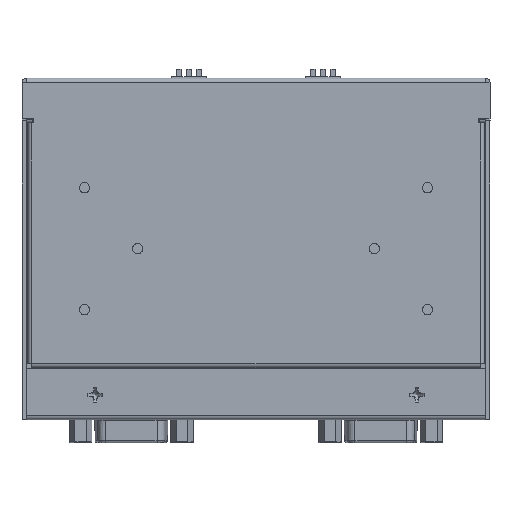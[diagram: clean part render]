
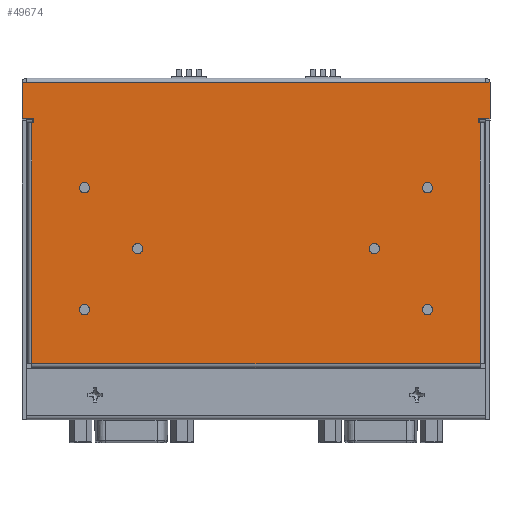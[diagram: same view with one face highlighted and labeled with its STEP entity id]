
A CAD part, front view. The second image highlights one B-rep face of the part: STEP entity #49674.
In plain terms, the highlighted planar face has unit normal (0, -1, 0).
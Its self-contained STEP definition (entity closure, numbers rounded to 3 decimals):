
#429=FACE_BOUND('',#6393,.T.);
#430=FACE_BOUND('',#6394,.T.);
#431=FACE_BOUND('',#6395,.T.);
#432=FACE_BOUND('',#6396,.T.);
#433=FACE_BOUND('',#6397,.T.);
#434=FACE_BOUND('',#6398,.T.);
#1194=PLANE('',#52932);
#3551=FACE_OUTER_BOUND('',#6392,.T.);
#6392=EDGE_LOOP('',(#37437,#37438,#37439,#37440,#37441,#37442,#37443,#37444,
#37445,#37446,#37447,#37448,#37449,#37450));
#6393=EDGE_LOOP('',(#37451));
#6394=EDGE_LOOP('',(#37452));
#6395=EDGE_LOOP('',(#37453));
#6396=EDGE_LOOP('',(#37454));
#6397=EDGE_LOOP('',(#37455));
#6398=EDGE_LOOP('',(#37456));
#9098=CIRCLE('',#52933,1.265);
#9099=CIRCLE('',#52934,1.265);
#9100=CIRCLE('',#52935,1.265);
#9101=CIRCLE('',#52936,1.265);
#9102=CIRCLE('',#52937,1.265);
#9103=CIRCLE('',#52938,1.265);
#11708=LINE('',#81752,#17187);
#11713=LINE('',#81762,#17192);
#11714=LINE('',#81765,#17193);
#11718=LINE('',#81773,#17197);
#11722=LINE('',#81780,#17201);
#11725=LINE('',#81786,#17204);
#11727=LINE('',#81791,#17206);
#11762=LINE('',#81870,#17241);
#11776=LINE('',#81936,#17255);
#11790=LINE('',#81969,#17269);
#11806=LINE('',#82074,#17285);
#11807=LINE('',#82076,#17286);
#11808=LINE('',#82077,#17287);
#11809=LINE('',#82078,#17288);
#17187=VECTOR('',#59656,10.);
#17192=VECTOR('',#59663,10.);
#17193=VECTOR('',#59666,10.);
#17197=VECTOR('',#59672,10.);
#17201=VECTOR('',#59678,10.);
#17204=VECTOR('',#59683,10.);
#17206=VECTOR('',#59687,10.);
#17241=VECTOR('',#59744,10.);
#17255=VECTOR('',#59790,10.);
#17269=VECTOR('',#59828,10.);
#17285=VECTOR('',#59884,10.);
#17286=VECTOR('',#59885,10.);
#17287=VECTOR('',#59886,10.);
#17288=VECTOR('',#59887,10.);
#22657=VERTEX_POINT('',#81749);
#22658=VERTEX_POINT('',#81751);
#22659=VERTEX_POINT('',#81755);
#22662=VERTEX_POINT('',#81760);
#22663=VERTEX_POINT('',#81764);
#22666=VERTEX_POINT('',#81772);
#22668=VERTEX_POINT('',#81777);
#22670=VERTEX_POINT('',#81784);
#22672=VERTEX_POINT('',#81789);
#22704=VERTEX_POINT('',#81866);
#22715=VERTEX_POINT('',#81934);
#22738=VERTEX_POINT('',#82072);
#22739=VERTEX_POINT('',#82073);
#22740=VERTEX_POINT('',#82075);
#22741=VERTEX_POINT('',#82079);
#22742=VERTEX_POINT('',#82081);
#22743=VERTEX_POINT('',#82083);
#22744=VERTEX_POINT('',#82085);
#22745=VERTEX_POINT('',#82087);
#22746=VERTEX_POINT('',#82089);
#28116=EDGE_CURVE('',#22658,#22657,#11708,.T.);
#28121=EDGE_CURVE('',#22659,#22662,#11713,.T.);
#28122=EDGE_CURVE('',#22662,#22663,#11714,.T.);
#28126=EDGE_CURVE('',#22666,#22658,#11718,.T.);
#28130=EDGE_CURVE('',#22668,#22666,#11722,.T.);
#28133=EDGE_CURVE('',#22663,#22670,#11725,.T.);
#28135=EDGE_CURVE('',#22670,#22672,#11727,.T.);
#28175=EDGE_CURVE('',#22704,#22668,#11762,.T.);
#28197=EDGE_CURVE('',#22672,#22715,#11776,.T.);
#28215=EDGE_CURVE('',#22715,#22704,#11790,.T.);
#28243=EDGE_CURVE('',#22738,#22739,#11806,.T.);
#28244=EDGE_CURVE('',#22739,#22740,#11807,.T.);
#28245=EDGE_CURVE('',#22740,#22659,#11808,.T.);
#28246=EDGE_CURVE('',#22738,#22657,#11809,.T.);
#28247=EDGE_CURVE('',#22741,#22741,#9098,.T.);
#28248=EDGE_CURVE('',#22742,#22742,#9099,.T.);
#28249=EDGE_CURVE('',#22743,#22743,#9100,.T.);
#28250=EDGE_CURVE('',#22744,#22744,#9101,.T.);
#28251=EDGE_CURVE('',#22745,#22745,#9102,.T.);
#28252=EDGE_CURVE('',#22746,#22746,#9103,.T.);
#37437=ORIENTED_EDGE('',*,*,#28243,.T.);
#37438=ORIENTED_EDGE('',*,*,#28244,.T.);
#37439=ORIENTED_EDGE('',*,*,#28245,.T.);
#37440=ORIENTED_EDGE('',*,*,#28121,.T.);
#37441=ORIENTED_EDGE('',*,*,#28122,.T.);
#37442=ORIENTED_EDGE('',*,*,#28133,.T.);
#37443=ORIENTED_EDGE('',*,*,#28135,.T.);
#37444=ORIENTED_EDGE('',*,*,#28197,.T.);
#37445=ORIENTED_EDGE('',*,*,#28215,.T.);
#37446=ORIENTED_EDGE('',*,*,#28175,.T.);
#37447=ORIENTED_EDGE('',*,*,#28130,.T.);
#37448=ORIENTED_EDGE('',*,*,#28126,.T.);
#37449=ORIENTED_EDGE('',*,*,#28116,.T.);
#37450=ORIENTED_EDGE('',*,*,#28246,.F.);
#37451=ORIENTED_EDGE('',*,*,#28247,.T.);
#37452=ORIENTED_EDGE('',*,*,#28248,.T.);
#37453=ORIENTED_EDGE('',*,*,#28249,.T.);
#37454=ORIENTED_EDGE('',*,*,#28250,.T.);
#37455=ORIENTED_EDGE('',*,*,#28251,.T.);
#37456=ORIENTED_EDGE('',*,*,#28252,.T.);
#49674=ADVANCED_FACE('',(#3551,#429,#430,#431,#432,#433,#434),#1194,.T.);
#52932=AXIS2_PLACEMENT_3D('',#82071,#59882,#59883);
#52933=AXIS2_PLACEMENT_3D('',#82080,#59888,#59889);
#52934=AXIS2_PLACEMENT_3D('',#82082,#59890,#59891);
#52935=AXIS2_PLACEMENT_3D('',#82084,#59892,#59893);
#52936=AXIS2_PLACEMENT_3D('',#82086,#59894,#59895);
#52937=AXIS2_PLACEMENT_3D('',#82088,#59896,#59897);
#52938=AXIS2_PLACEMENT_3D('',#82090,#59898,#59899);
#59656=DIRECTION('',(1.,0.,0.));
#59663=DIRECTION('',(0.,0.,-1.));
#59666=DIRECTION('',(1.,0.,0.));
#59672=DIRECTION('',(0.,0.,1.));
#59678=DIRECTION('',(-1.,0.,0.));
#59683=DIRECTION('',(0.,0.,-1.));
#59687=DIRECTION('',(-1.,0.,0.));
#59744=DIRECTION('',(0.,0.,1.));
#59790=DIRECTION('',(0.,0.,-1.));
#59828=DIRECTION('',(1.,0.,0.));
#59882=DIRECTION('center_axis',(0.,-1.,0.));
#59883=DIRECTION('ref_axis',(1.,0.,0.));
#59884=DIRECTION('',(-1.,0.,0.));
#59885=DIRECTION('',(-1.,0.,0.));
#59886=DIRECTION('',(-1.,0.,0.));
#59887=DIRECTION('',(0.,0.,-1.));
#59888=DIRECTION('center_axis',(0.,1.,0.));
#59889=DIRECTION('ref_axis',(0.,0.,-1.));
#59890=DIRECTION('center_axis',(0.,1.,0.));
#59891=DIRECTION('ref_axis',(0.,0.,-1.));
#59892=DIRECTION('center_axis',(0.,1.,0.));
#59893=DIRECTION('ref_axis',(0.,0.,-1.));
#59894=DIRECTION('center_axis',(0.,1.,0.));
#59895=DIRECTION('ref_axis',(0.,0.,-1.));
#59896=DIRECTION('center_axis',(0.,1.,0.));
#59897=DIRECTION('ref_axis',(0.,0.,-1.));
#59898=DIRECTION('center_axis',(0.,1.,0.));
#59899=DIRECTION('ref_axis',(0.,0.,-1.));
#81749=CARTESIAN_POINT('',(57.65,-8.,-8.8));
#81751=CARTESIAN_POINT('',(54.74,-8.,-8.8));
#81752=CARTESIAN_POINT('',(3.1,-8.,-8.8));
#81755=CARTESIAN_POINT('',(-57.65,-8.,0.19));
#81760=CARTESIAN_POINT('',(-57.65,-8.,-8.8));
#81762=CARTESIAN_POINT('',(-57.65,-8.,-8.8));
#81764=CARTESIAN_POINT('',(-54.74,-8.,-8.8));
#81765=CARTESIAN_POINT('',(-52.395,-8.,-8.8));
#81772=CARTESIAN_POINT('',(54.74,-8.,-9.8));
#81773=CARTESIAN_POINT('',(54.74,-8.,-16.9));
#81777=CARTESIAN_POINT('',(55.24,-8.,-9.8));
#81780=CARTESIAN_POINT('',(2.345,-8.,-9.8));
#81784=CARTESIAN_POINT('',(-54.74,-8.,-9.8));
#81786=CARTESIAN_POINT('',(-54.74,-8.,-17.4));
#81789=CARTESIAN_POINT('',(-55.24,-8.,-9.8));
#81791=CARTESIAN_POINT('',(-53.15,-8.,-9.8));
#81866=CARTESIAN_POINT('',(55.24,-8.,-69.157));
#81870=CARTESIAN_POINT('',(55.24,-8.,-17.4));
#81934=CARTESIAN_POINT('',(-55.24,-8.,-69.157));
#81936=CARTESIAN_POINT('',(-55.24,-8.,-47.4));
#81969=CARTESIAN_POINT('',(2.595,-8.,-69.157));
#82071=CARTESIAN_POINT('Origin',(-50.05,-8.,-25.));
#82072=CARTESIAN_POINT('',(57.65,-8.,0.19));
#82073=CARTESIAN_POINT('',(56.64,-8.,0.19));
#82074=CARTESIAN_POINT('',(-53.85,-8.,0.19));
#82075=CARTESIAN_POINT('',(-56.64,-8.,0.19));
#82076=CARTESIAN_POINT('',(-53.85,-8.,0.19));
#82077=CARTESIAN_POINT('',(-53.85,-8.,0.19));
#82078=CARTESIAN_POINT('',(57.65,-8.,-8.8));
#82079=CARTESIAN_POINT('',(-29.15,-8.,-39.536));
#82080=CARTESIAN_POINT('Origin',(-29.15,-8.,-40.8));
#82081=CARTESIAN_POINT('',(42.25,-8.,-24.536));
#82082=CARTESIAN_POINT('Origin',(42.25,-8.,-25.8));
#82083=CARTESIAN_POINT('',(42.25,-8.,-54.536));
#82084=CARTESIAN_POINT('Origin',(42.25,-8.,-55.8));
#82085=CARTESIAN_POINT('',(29.15,-8.,-39.536));
#82086=CARTESIAN_POINT('Origin',(29.15,-8.,-40.8));
#82087=CARTESIAN_POINT('',(-42.25,-8.,-24.536));
#82088=CARTESIAN_POINT('Origin',(-42.25,-8.,-25.8));
#82089=CARTESIAN_POINT('',(-42.25,-8.,-54.536));
#82090=CARTESIAN_POINT('Origin',(-42.25,-8.,-55.8));
